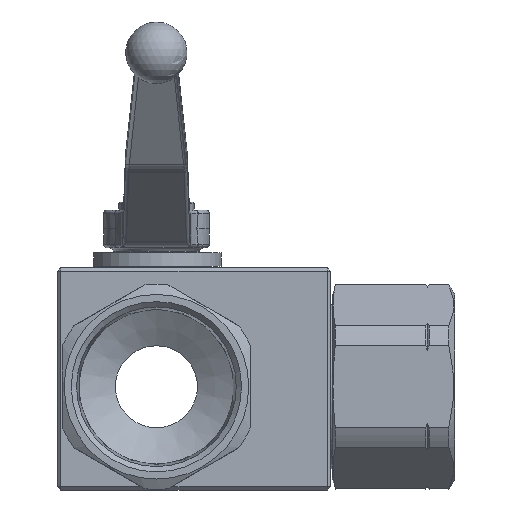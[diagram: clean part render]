
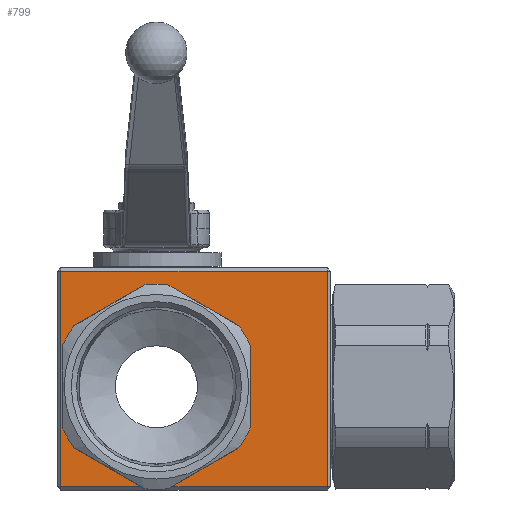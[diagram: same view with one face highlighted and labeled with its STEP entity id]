
A CAD part, front view. The second image highlights one B-rep face of the part: STEP entity #799.
In plain terms, the highlighted planar face has unit normal (0, -1, 0).
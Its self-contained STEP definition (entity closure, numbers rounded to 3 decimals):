
#799 = ADVANCED_FACE( '', ( #1775, #1776 ), #1777, .F. );
#1775 = FACE_OUTER_BOUND( '', #3199, .T. );
#1776 = FACE_BOUND( '', #3200, .T. );
#1777 = PLANE( '', #3201 );
#3199 = EDGE_LOOP( '', ( #5656, #5657, #5658, #5659 ) );
#3200 = EDGE_LOOP( '', ( #5660 ) );
#3201 = AXIS2_PLACEMENT_3D( '', #5661, #5662, #5663 );
#5656 = ORIENTED_EDGE( '', *, *, #8708, .T. );
#5657 = ORIENTED_EDGE( '', *, *, #8709, .T. );
#5658 = ORIENTED_EDGE( '', *, *, #8710, .T. );
#5659 = ORIENTED_EDGE( '', *, *, #8467, .T. );
#5660 = ORIENTED_EDGE( '', *, *, #8711, .F. );
#5661 = CARTESIAN_POINT( '', ( -29., -32.5, 34.8 ) );
#5662 = DIRECTION( '', ( 0., 1., 0. ) );
#5663 = DIRECTION( '', ( 0., 0., 1. ) );
#8467 = EDGE_CURVE( '', #9938, #9936, #9939, .T. );
#8708 = EDGE_CURVE( '', #9936, #10338, #10339, .T. );
#8709 = EDGE_CURVE( '', #10338, #10340, #10341, .T. );
#8710 = EDGE_CURVE( '', #10340, #9938, #10342, .T. );
#8711 = EDGE_CURVE( '', #10343, #10343, #10344, .T. );
#9936 = VERTEX_POINT( '', #12425 );
#9938 = VERTEX_POINT( '', #12428 );
#9939 = LINE( '', #12429, #12430 );
#10338 = VERTEX_POINT( '', #13349 );
#10339 = LINE( '', #13350, #13351 );
#10340 = VERTEX_POINT( '', #13352 );
#10341 = LINE( '', #13353, #13354 );
#10342 = LINE( '', #13355, #13356 );
#10343 = VERTEX_POINT( '', #13357 );
#10344 = CIRCLE( '', #13358, 25.25 );
#12425 = CARTESIAN_POINT( '', ( 50., -32.5, 33.8 ) );
#12428 = CARTESIAN_POINT( '', ( 50., -32.5, -29.2 ) );
#12429 = CARTESIAN_POINT( '', ( 50., -32.5, 34.8 ) );
#12430 = VECTOR( '', #16575, 1000. );
#13349 = CARTESIAN_POINT( '', ( -28., -32.5, 33.8 ) );
#13350 = CARTESIAN_POINT( '', ( -29., -32.5, 33.8 ) );
#13351 = VECTOR( '', #16837, 1000. );
#13352 = CARTESIAN_POINT( '', ( -28., -32.5, -29.2 ) );
#13353 = CARTESIAN_POINT( '', ( -28., -32.5, 34.8 ) );
#13354 = VECTOR( '', #16838, 1000. );
#13355 = CARTESIAN_POINT( '', ( 51., -32.5, -29.2 ) );
#13356 = VECTOR( '', #16839, 1000. );
#13357 = CARTESIAN_POINT( '', ( 25.25, -32.5, 0. ) );
#13358 = AXIS2_PLACEMENT_3D( '', #16840, #16841, #16842 );
#16575 = DIRECTION( '', ( 0., 0., 1. ) );
#16837 = DIRECTION( '', ( -1., 0., 0. ) );
#16838 = DIRECTION( '', ( 0., 0., -1. ) );
#16839 = DIRECTION( '', ( 1., 0., 0. ) );
#16840 = CARTESIAN_POINT( '', ( 0., -32.5, 0. ) );
#16841 = DIRECTION( '', ( 0., -1., 0. ) );
#16842 = DIRECTION( '', ( 1., 0., 0. ) );
